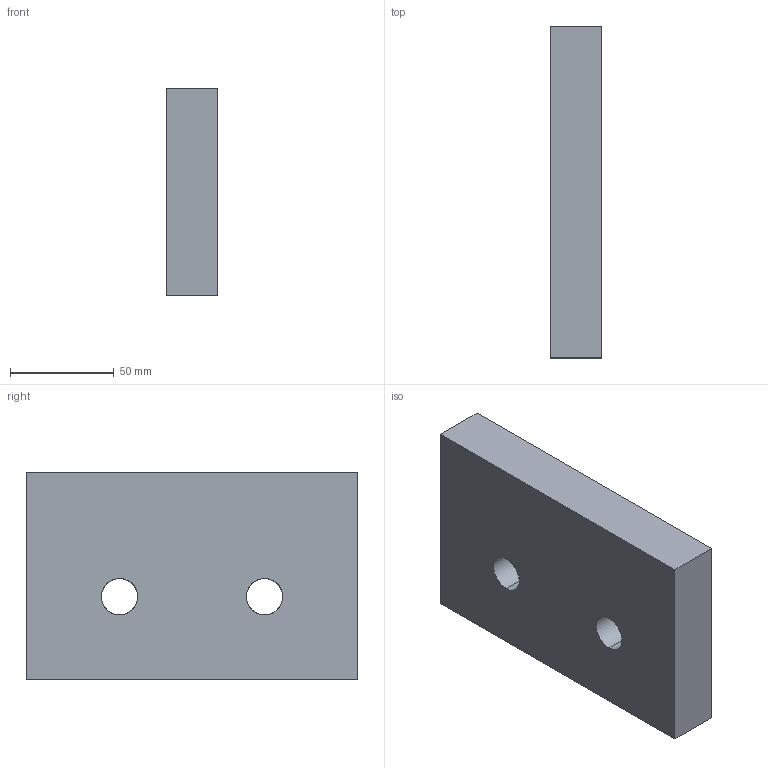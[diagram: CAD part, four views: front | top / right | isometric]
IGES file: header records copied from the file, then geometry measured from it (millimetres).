
Start section: START RECORD GO HERE.
Global section: file name: A612-100-160.igs; native system: DASSAULT SYSTEMES CATIA V5 R20 - www.3ds.com; preprocessor: CATIA Version 5 Release 20 ; author: Utente; organization: NB04-ASUS; date: 20200414.152250; units: millimetre
Bounding box: 25 x 160 x 100 mm (x, y, z)
Surface area: 46786.8 mm2 (no closed solid volume)
Topology: 0 solids, 0 shells, 10 faces, 48 edges, 48 vertices
Faces by surface type: extrusion 6, revolution 4
